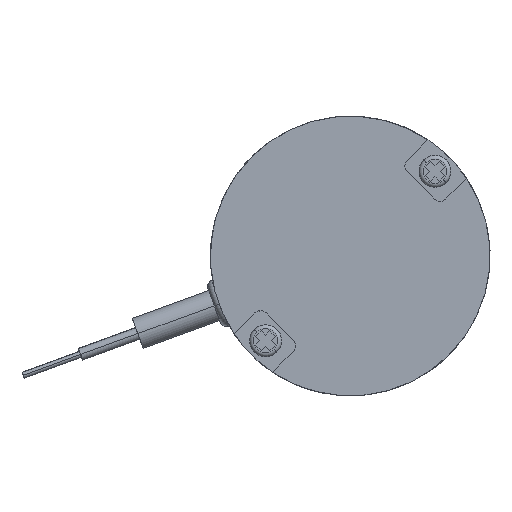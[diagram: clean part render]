
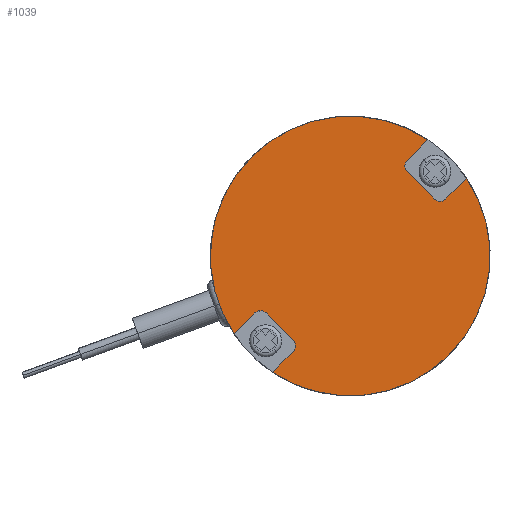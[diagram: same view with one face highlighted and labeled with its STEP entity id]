
A CAD part, left-side view. The second image highlights one B-rep face of the part: STEP entity #1039.
In plain terms, the highlighted planar face has unit normal (-1, 0, 0).
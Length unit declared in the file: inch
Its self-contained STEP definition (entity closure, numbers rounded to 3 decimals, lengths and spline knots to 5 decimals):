
#10 = ORIENTED_EDGE ( 'NONE', *, *, #727, .F. ) ;
#15 = EDGE_CURVE ( 'NONE', #4638, #76, #5677, .T. ) ;
#18 = ORIENTED_EDGE ( 'NONE', *, *, #4512, .F. ) ;
#44 = EDGE_CURVE ( 'NONE', #5324, #9000, #818, .T. ) ;
#76 = VERTEX_POINT ( 'NONE', #6680 ) ;
#124 = EDGE_CURVE ( 'NONE', #6265, #4638, #4526, .T. ) ;
#191 = DIRECTION ( 'NONE',  ( 0., -0.707, -0.707 ) ) ;
#249 = CARTESIAN_POINT ( 'NONE',  ( 0., -0.2802, 0.41382 ) ) ;
#311 = VERTEX_POINT ( 'NONE', #586 ) ;
#562 = EDGE_CURVE ( 'NONE', #5159, #311, #3500, .T. ) ;
#586 = CARTESIAN_POINT ( 'NONE',  ( 0., 0.57156, -0.38225 ) ) ;
#631 = CARTESIAN_POINT ( 'NONE',  ( 0., -0.4695, 0.2802 ) ) ;
#727 = EDGE_CURVE ( 'NONE', #6259, #8623, #6449, .T. ) ;
#818 = CIRCLE ( 'NONE', #6287, 0.6876 ) ;
#1039 = ADVANCED_FACE ( 'NONE', ( #4273 ), #1370, .F. ) ;
#1047 = CARTESIAN_POINT ( 'NONE',  ( 0., 0.41382, -0.2802 ) ) ;
#1181 = CARTESIAN_POINT ( 'NONE',  ( 0., 0.2802, -0.41382 ) ) ;
#1370 = PLANE ( 'NONE',  #6655 ) ;
#1612 = VECTOR ( 'NONE', #4124, 39.37008 ) ;
#1651 = CARTESIAN_POINT ( 'NONE',  ( 0., 0., 0. ) ) ;
#2020 = CARTESIAN_POINT ( 'NONE',  ( 0., 0.38225, -0.57156 ) ) ;
#2046 = VERTEX_POINT ( 'NONE', #2020 ) ;
#2145 = VERTEX_POINT ( 'NONE', #4257 ) ;
#2209 = CIRCLE ( 'NONE', #5367, 0.6876 ) ;
#2212 = ORIENTED_EDGE ( 'NONE', *, *, #8529, .F. ) ;
#2250 = CARTESIAN_POINT ( 'NONE',  ( 0., 0.2802, -0.4695 ) ) ;
#2252 = DIRECTION ( 'NONE',  ( -1., 0., 0. ) ) ;
#2272 = CARTESIAN_POINT ( 'NONE',  ( 0., -0.38225, 0.57156 ) ) ;
#2521 = CARTESIAN_POINT ( 'NONE',  ( 0., 0.44166, -0.30804 ) ) ;
#2613 = LINE ( 'NONE', #631, #1612 ) ;
#2727 = ORIENTED_EDGE ( 'NONE', *, *, #562, .F. ) ;
#2835 = ORIENTED_EDGE ( 'NONE', *, *, #124, .F. ) ;
#2859 = DIRECTION ( 'NONE',  ( -1., 0., 0. ) ) ;
#2879 = CARTESIAN_POINT ( 'NONE',  ( 0., -0.2802, 0.41382 ) ) ;
#2972 = CARTESIAN_POINT ( 'NONE',  ( 0., 0., 0. ) ) ;
#3004 = CARTESIAN_POINT ( 'NONE',  ( 0., -0.2802, 0.4695 ) ) ;
#3073 = VECTOR ( 'NONE', #5997, 39.37008 ) ;
#3122 = CARTESIAN_POINT ( 'NONE',  ( 0., 0.30804, -0.44166 ) ) ;
#3137 = DIRECTION ( 'NONE',  ( 0., -0.707, -0.707 ) ) ;
#3166 = VECTOR ( 'NONE', #8882, 39.37008 ) ;
#3256 = DIRECTION ( 'NONE',  ( 0., 0.707, 0.707 ) ) ;
#3457 = ORIENTED_EDGE ( 'NONE', *, *, #6895, .F. ) ;
#3500 = LINE ( 'NONE', #3692, #7246 ) ;
#3692 = CARTESIAN_POINT ( 'NONE',  ( 0., 0.4695, -0.2802 ) ) ;
#3707 = DIRECTION ( 'NONE',  ( 0., -0.707, -0.707 ) ) ;
#3738 = CARTESIAN_POINT ( 'NONE',  ( 0., -0.2802, 0.4695 ) ) ;
#3859 = DIRECTION ( 'NONE',  ( 1., 0., 0. ) ) ;
#3960 = ORIENTED_EDGE ( 'NONE', *, *, #5388, .F. ) ;
#4124 = DIRECTION ( 'NONE',  ( 0., -0.707, 0.707 ) ) ;
#4257 = CARTESIAN_POINT ( 'NONE',  ( 0., -0.57156, 0.38225 ) ) ;
#4268 = CIRCLE ( 'NONE', #5660, 0.6876 ) ;
#4273 = FACE_OUTER_BOUND ( 'NONE', #8239, .T. ) ;
#4415 = DIRECTION ( 'NONE',  ( 1., 0., 0. ) ) ;
#4484 = DIRECTION ( 'NONE',  ( 0., -0.707, -0.707 ) ) ;
#4505 = DIRECTION ( 'NONE',  ( -1., 0., 0. ) ) ;
#4512 = EDGE_CURVE ( 'NONE', #5481, #6265, #8134, .T. ) ;
#4526 = LINE ( 'NONE', #249, #3166 ) ;
#4544 = ORIENTED_EDGE ( 'NONE', *, *, #6316, .F. ) ;
#4560 = ORIENTED_EDGE ( 'NONE', *, *, #5202, .F. ) ;
#4638 = VERTEX_POINT ( 'NONE', #9082 ) ;
#4779 = VERTEX_POINT ( 'NONE', #8163 ) ;
#4785 = ORIENTED_EDGE ( 'NONE', *, *, #8352, .F. ) ;
#4831 = AXIS2_PLACEMENT_3D ( 'NONE', #7227, #2859, #7977 ) ;
#4980 = CARTESIAN_POINT ( 'NONE',  ( 0., 0.41382, -0.2802 ) ) ;
#5039 = DIRECTION ( 'NONE',  ( 1., 0., 0. ) ) ;
#5152 = AXIS2_PLACEMENT_3D ( 'NONE', #8803, #2252, #191 ) ;
#5159 = VERTEX_POINT ( 'NONE', #5685 ) ;
#5202 = EDGE_CURVE ( 'NONE', #76, #2145, #2613, .T. ) ;
#5221 = CIRCLE ( 'NONE', #5224, 0.6876 ) ;
#5224 = AXIS2_PLACEMENT_3D ( 'NONE', #8070, #4415, #6515 ) ;
#5287 = ORIENTED_EDGE ( 'NONE', *, *, #15, .F. ) ;
#5324 = VERTEX_POINT ( 'NONE', #8049 ) ;
#5367 = AXIS2_PLACEMENT_3D ( 'NONE', #1651, #6753, #3137 ) ;
#5388 = EDGE_CURVE ( 'NONE', #9000, #5481, #6942, .T. ) ;
#5481 = VERTEX_POINT ( 'NONE', #3738 ) ;
#5499 = ORIENTED_EDGE ( 'NONE', *, *, #44, .F. ) ;
#5660 = AXIS2_PLACEMENT_3D ( 'NONE', #2972, #8084, #3707 ) ;
#5677 = CIRCLE ( 'NONE', #4831, 0.03937 ) ;
#5685 = CARTESIAN_POINT ( 'NONE',  ( 0., 0.4695, -0.2802 ) ) ;
#5865 = EDGE_CURVE ( 'NONE', #2145, #4779, #5221, .T. ) ;
#5997 = DIRECTION ( 'NONE',  ( 0., 0.707, -0.707 ) ) ;
#6014 = DIRECTION ( 'NONE',  ( 0., -0.707, -0.707 ) ) ;
#6072 = VECTOR ( 'NONE', #7402, 39.37008 ) ;
#6117 = VERTEX_POINT ( 'NONE', #1047 ) ;
#6259 = VERTEX_POINT ( 'NONE', #7118 ) ;
#6265 = VERTEX_POINT ( 'NONE', #2879 ) ;
#6287 = AXIS2_PLACEMENT_3D ( 'NONE', #7528, #3859, #4484 ) ;
#6299 = AXIS2_PLACEMENT_3D ( 'NONE', #3122, #4505, #6014 ) ;
#6316 = EDGE_CURVE ( 'NONE', #8623, #6117, #7941, .T. ) ;
#6442 = DIRECTION ( 'NONE',  ( 0., -0.707, -0.707 ) ) ;
#6449 = CIRCLE ( 'NONE', #6299, 0.03937 ) ;
#6515 = DIRECTION ( 'NONE',  ( 0., -0.707, -0.707 ) ) ;
#6655 = AXIS2_PLACEMENT_3D ( 'NONE', #8684, #5039, #6442 ) ;
#6669 = VECTOR ( 'NONE', #7151, 39.37008 ) ;
#6680 = CARTESIAN_POINT ( 'NONE',  ( 0., -0.4695, 0.2802 ) ) ;
#6753 = DIRECTION ( 'NONE',  ( 1., 0., 0. ) ) ;
#6857 = LINE ( 'NONE', #2250, #6072 ) ;
#6895 = EDGE_CURVE ( 'NONE', #311, #5324, #4268, .T. ) ;
#6942 = LINE ( 'NONE', #3004, #3073 ) ;
#6991 = EDGE_CURVE ( 'NONE', #6117, #5159, #8750, .T. ) ;
#7117 = ORIENTED_EDGE ( 'NONE', *, *, #6991, .F. ) ;
#7118 = CARTESIAN_POINT ( 'NONE',  ( 0., 0.2802, -0.4695 ) ) ;
#7151 = DIRECTION ( 'NONE',  ( 0., 0.707, 0.707 ) ) ;
#7227 = CARTESIAN_POINT ( 'NONE',  ( 0., -0.44166, 0.30804 ) ) ;
#7246 = VECTOR ( 'NONE', #8752, 39.37008 ) ;
#7402 = DIRECTION ( 'NONE',  ( 0., -0.707, 0.707 ) ) ;
#7528 = CARTESIAN_POINT ( 'NONE',  ( 0., 0., 0. ) ) ;
#7622 = DIRECTION ( 'NONE',  ( -1., 0., 0. ) ) ;
#7696 = ORIENTED_EDGE ( 'NONE', *, *, #5865, .F. ) ;
#7941 = LINE ( 'NONE', #4980, #6669 ) ;
#7977 = DIRECTION ( 'NONE',  ( 0., 0.707, 0.707 ) ) ;
#8049 = CARTESIAN_POINT ( 'NONE',  ( 0., 0.48621, 0.48621 ) ) ;
#8070 = CARTESIAN_POINT ( 'NONE',  ( 0., 0., 0. ) ) ;
#8084 = DIRECTION ( 'NONE',  ( 1., 0., 0. ) ) ;
#8134 = CIRCLE ( 'NONE', #5152, 0.03937 ) ;
#8163 = CARTESIAN_POINT ( 'NONE',  ( 0., -0.48621, -0.48621 ) ) ;
#8239 = EDGE_LOOP ( 'NONE', ( #18, #3960, #5499, #3457, #2727, #7117, #4544, #10, #4785, #2212, #7696, #4560, #5287, #2835 ) ) ;
#8352 = EDGE_CURVE ( 'NONE', #2046, #6259, #6857, .T. ) ;
#8443 = AXIS2_PLACEMENT_3D ( 'NONE', #2521, #7622, #3256 ) ;
#8529 = EDGE_CURVE ( 'NONE', #4779, #2046, #2209, .T. ) ;
#8623 = VERTEX_POINT ( 'NONE', #1181 ) ;
#8684 = CARTESIAN_POINT ( 'NONE',  ( 0., 0., 0. ) ) ;
#8750 = CIRCLE ( 'NONE', #8443, 0.03937 ) ;
#8752 = DIRECTION ( 'NONE',  ( 0., 0.707, -0.707 ) ) ;
#8803 = CARTESIAN_POINT ( 'NONE',  ( 0., -0.30804, 0.44166 ) ) ;
#8882 = DIRECTION ( 'NONE',  ( 0., -0.707, -0.707 ) ) ;
#9000 = VERTEX_POINT ( 'NONE', #2272 ) ;
#9082 = CARTESIAN_POINT ( 'NONE',  ( 0., -0.41382, 0.2802 ) ) ;
